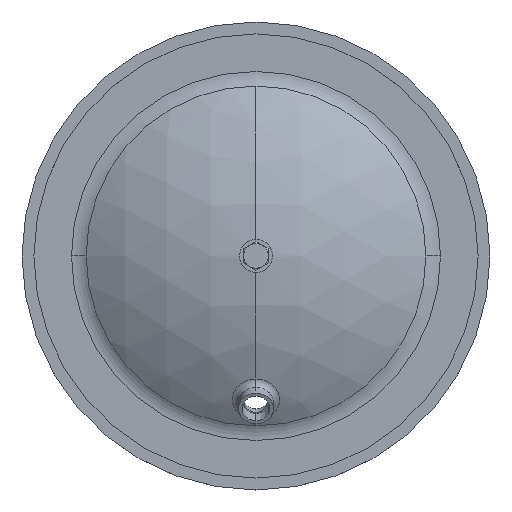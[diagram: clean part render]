
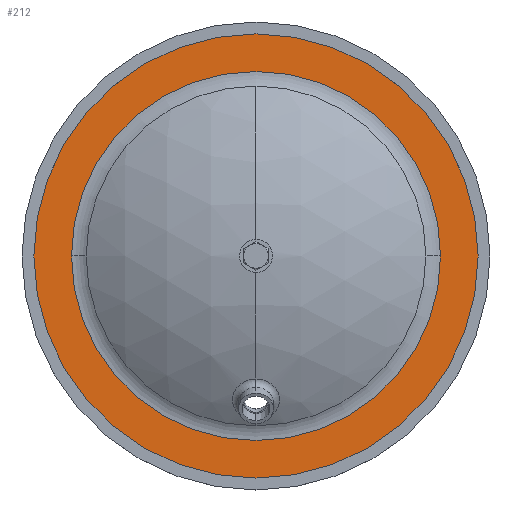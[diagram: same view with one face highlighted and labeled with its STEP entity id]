
A CAD part, top view. The second image highlights one B-rep face of the part: STEP entity #212.
In plain terms, the highlighted planar face has unit normal (0, 0, 1).
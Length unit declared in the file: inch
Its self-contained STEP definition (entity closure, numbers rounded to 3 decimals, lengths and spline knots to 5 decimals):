
#29 = EDGE_CURVE ( 'NONE', #836, #826, #558, .T. ) ;
#115 = EDGE_CURVE ( 'NONE', #826, #836, #423, .T. ) ;
#117 = EDGE_CURVE ( 'NONE', #752, #881, #422, .T. ) ;
#212 = ADVANCED_FACE ( 'NONE', ( #1868, #1767 ), #1111, .T. ) ;
#422 = CIRCLE ( 'NONE', #1977, 6.97856 ) ;
#423 = CIRCLE ( 'NONE', #1987, 8.67 ) ;
#558 = CIRCLE ( 'NONE', #2046, 8.67 ) ;
#752 = VERTEX_POINT ( 'NONE', #2010 ) ;
#826 = VERTEX_POINT ( 'NONE', #1849 ) ;
#836 = VERTEX_POINT ( 'NONE', #1882 ) ;
#881 = VERTEX_POINT ( 'NONE', #1866 ) ;
#955 = EDGE_LOOP ( 'NONE', ( #1018, #1037 ) ) ;
#973 = EDGE_LOOP ( 'NONE', ( #1013, #1015 ) ) ;
#1013 = ORIENTED_EDGE ( 'NONE', *, *, #2131, .T. ) ;
#1015 = ORIENTED_EDGE ( 'NONE', *, *, #117, .T. ) ;
#1018 = ORIENTED_EDGE ( 'NONE', *, *, #29, .T. ) ;
#1037 = ORIENTED_EDGE ( 'NONE', *, *, #115, .T. ) ;
#1107 = DIRECTION ( 'NONE',  ( 1., 0., 0. ) ) ;
#1109 = DIRECTION ( 'NONE',  ( 0., 0., 1. ) ) ;
#1111 = PLANE ( 'NONE',  #2067 ) ;
#1122 = CARTESIAN_POINT ( 'NONE',  ( 1.60036, -8.21286, -2.13248 ) ) ;
#1339 = DIRECTION ( 'NONE',  ( 1., 0., 0. ) ) ;
#1384 = DIRECTION ( 'NONE',  ( 1., 0., 0. ) ) ;
#1387 = DIRECTION ( 'NONE',  ( 0., 0., -1. ) ) ;
#1388 = CARTESIAN_POINT ( 'NONE',  ( 1.60036, 0.45714, -2.13248 ) ) ;
#1393 = DIRECTION ( 'NONE',  ( 1., 0., 0. ) ) ;
#1396 = DIRECTION ( 'NONE',  ( 0., 0., 1. ) ) ;
#1398 = CARTESIAN_POINT ( 'NONE',  ( 1.60036, 0.45714, -2.13248 ) ) ;
#1404 = DIRECTION ( 'NONE',  ( 0., 0., -1. ) ) ;
#1418 = CARTESIAN_POINT ( 'NONE',  ( 1.60036, 0.45714, -2.13248 ) ) ;
#1504 = DIRECTION ( 'NONE',  ( 1., 0., 0. ) ) ;
#1505 = DIRECTION ( 'NONE',  ( 0., 0., 1. ) ) ;
#1506 = CARTESIAN_POINT ( 'NONE',  ( 1.60036, 0.45714, -2.13248 ) ) ;
#1716 = AXIS2_PLACEMENT_3D ( 'NONE', #1418, #1404, #1339 ) ;
#1767 = FACE_OUTER_BOUND ( 'NONE', #955, .T. ) ;
#1849 = CARTESIAN_POINT ( 'NONE',  ( -7.06964, 0.45714, -2.13248 ) ) ;
#1866 = CARTESIAN_POINT ( 'NONE',  ( 8.57892, 0.45714, -2.13248 ) ) ;
#1868 = FACE_BOUND ( 'NONE', #973, .T. ) ;
#1882 = CARTESIAN_POINT ( 'NONE',  ( 10.27036, 0.45714, -2.13248 ) ) ;
#1941 = CIRCLE ( 'NONE', #1716, 6.97856 ) ;
#1977 = AXIS2_PLACEMENT_3D ( 'NONE', #1388, #1387, #1384 ) ;
#1987 = AXIS2_PLACEMENT_3D ( 'NONE', #1398, #1396, #1393 ) ;
#2010 = CARTESIAN_POINT ( 'NONE',  ( -5.3782, 0.45714, -2.13248 ) ) ;
#2046 = AXIS2_PLACEMENT_3D ( 'NONE', #1506, #1505, #1504 ) ;
#2067 = AXIS2_PLACEMENT_3D ( 'NONE', #1122, #1109, #1107 ) ;
#2131 = EDGE_CURVE ( 'NONE', #881, #752, #1941, .T. ) ;
